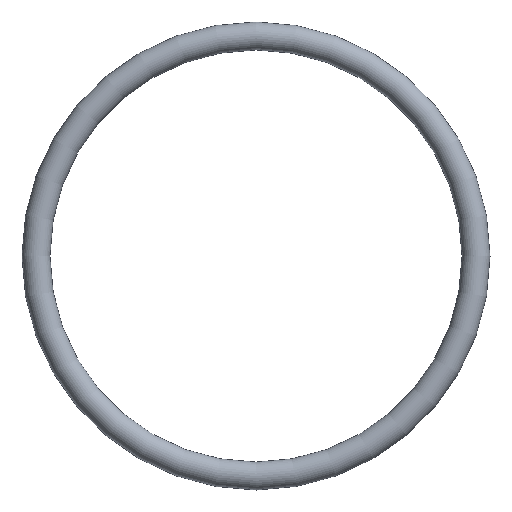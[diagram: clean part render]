
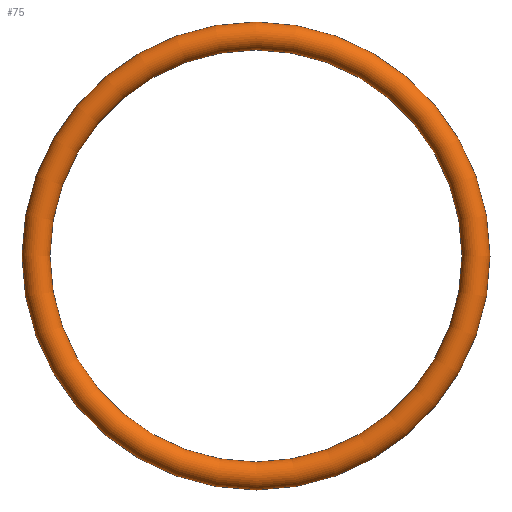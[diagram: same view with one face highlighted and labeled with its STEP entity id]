
A CAD part, front view. The second image highlights one B-rep face of the part: STEP entity #75.
In plain terms, the highlighted toroidal (fillet/blend) face has major radius 23.6 mm and minor radius 1.5 mm.
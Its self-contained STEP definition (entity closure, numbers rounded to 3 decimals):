
#75 = ADVANCED_FACE( '', ( #77 ), #78, .T. );
#77 = FACE_BOUND( '', #79, .T. );
#78 = TOROIDAL_SURFACE( '', #80, 23.6, 1.5 );
#79 = VERTEX_LOOP( '', #81 );
#80 = AXIS2_PLACEMENT_3D( '', #82, #83, #84 );
#81 = VERTEX_POINT( '', #85 );
#82 = CARTESIAN_POINT( '', ( 0., 0., 0. ) );
#83 = DIRECTION( '', ( 0., -1., 0. ) );
#84 = DIRECTION( '', ( 0., 0., -1. ) );
#85 = CARTESIAN_POINT( '', ( 0., 0., -25.1 ) );
